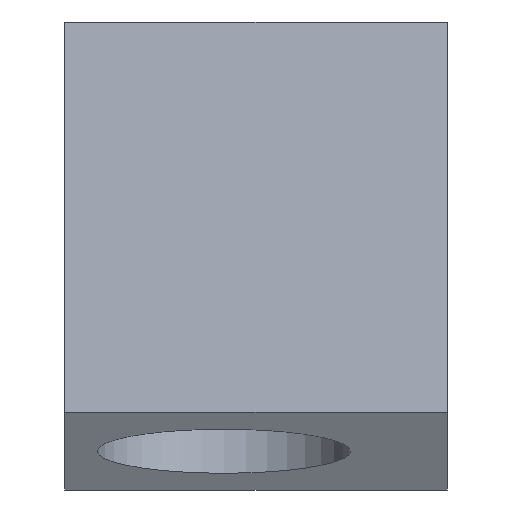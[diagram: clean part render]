
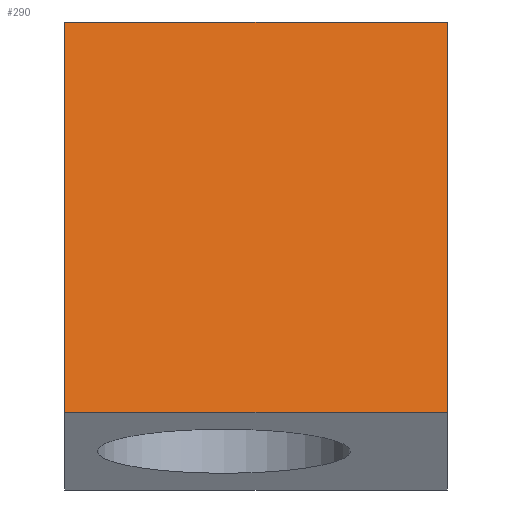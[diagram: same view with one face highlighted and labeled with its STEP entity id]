
A CAD part, front view. The second image highlights one B-rep face of the part: STEP entity #290.
In plain terms, the highlighted planar face has unit normal (0, -0.985, 0.174).
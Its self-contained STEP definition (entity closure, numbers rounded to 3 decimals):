
#37=CARTESIAN_POINT('',(-198.5,-293.495,331.799));
#38=VERTEX_POINT('',#37);
#45=CARTESIAN_POINT('',(-267.,-293.495,331.799));
#46=VERTEX_POINT('',#45);
#47=CARTESIAN_POINT('',(-267.,-293.495,331.799));
#48=DIRECTION('',(1.0,0.0,0.0));
#49=VECTOR('',#48,1.);
#50=LINE('',#47,#49);
#51=EDGE_CURVE('',#46,#38,#50,.T.);
#86=CARTESIAN_POINT('',(-198.5,-281.166,401.721));
#87=VERTEX_POINT('',#86);
#94=CARTESIAN_POINT('',(-198.5,-293.495,331.799));
#95=DIRECTION('',(0.,0.174,0.985));
#96=VECTOR('',#95,1.);
#97=LINE('',#94,#96);
#98=EDGE_CURVE('',#38,#87,#97,.T.);
#161=CARTESIAN_POINT('',(-267.,-281.166,401.721));
#162=VERTEX_POINT('',#161);
#169=CARTESIAN_POINT('',(-198.5,-281.166,401.721));
#170=DIRECTION('',(-1.0,0.,0.));
#171=VECTOR('',#170,1.);
#172=LINE('',#169,#171);
#173=EDGE_CURVE('',#87,#162,#172,.T.);
#257=CARTESIAN_POINT('',(-267.,-281.166,401.721));
#258=DIRECTION('',(0.,-0.174,-0.985));
#259=VECTOR('',#258,1.);
#260=LINE('',#257,#259);
#261=EDGE_CURVE('',#162,#46,#260,.T.);
#279=CARTESIAN_POINT('',(-267.,-293.495,331.799));
#280=DIRECTION('',(0.0,-0.985,0.174));
#281=DIRECTION('',(1.0,0.0,0.0));
#282=AXIS2_PLACEMENT_3D('',#279,#280,#281);
#283=PLANE('',#282);
#284=ORIENTED_EDGE('',*,*,#51,.T.);
#285=ORIENTED_EDGE('',*,*,#98,.T.);
#286=ORIENTED_EDGE('',*,*,#173,.T.);
#287=ORIENTED_EDGE('',*,*,#261,.T.);
#288=EDGE_LOOP('',(#284,#285,#286,#287));
#289=FACE_BOUND('',#288,.T.);
#290=ADVANCED_FACE('',(#289),#283,.T.);
